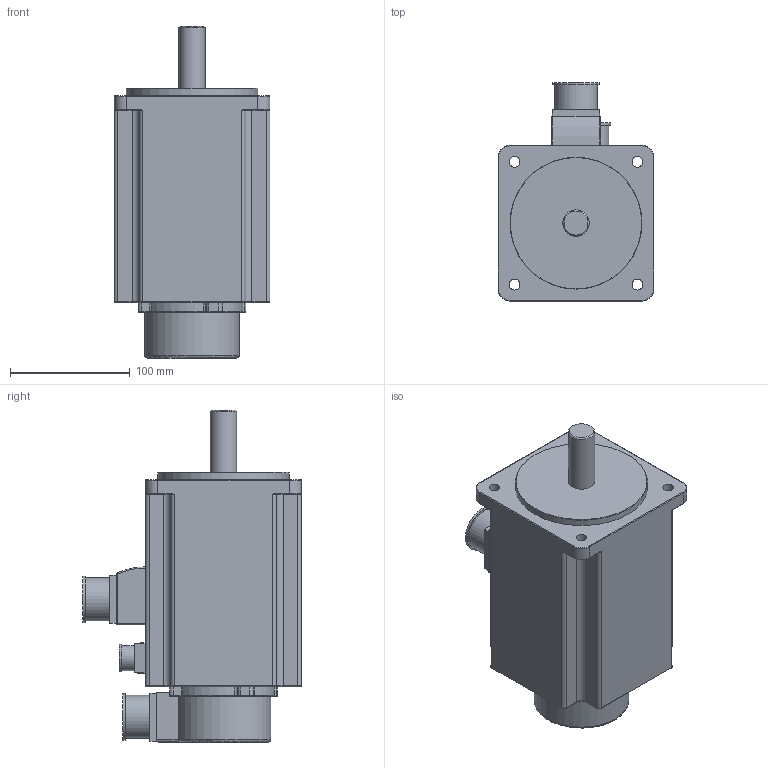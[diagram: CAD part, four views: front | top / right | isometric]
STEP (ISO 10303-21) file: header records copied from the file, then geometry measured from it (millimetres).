
FILE_DESCRIPTION(/* description */ (''),/* implementation_level */ '2;1');
FILE_NAME(/* name */ '130MAL07725 - FZ.stp',/* time_stamp */ '2019-11-22T13:45:09+08:00',/* author */ (''),/* organization */ (''),/* preprocessor_version */ 'ST-DEVELOPER v16',/* originating_system */ 'SIEMENS PLM Software NX 10.0',/* authorisation */ '');
FILE_SCHEMA (('CONFIG_CONTROL_DESIGN'));
Length unit declared in the file: millimetre
Products named in the file (1): 130MAL07725 - FZ
Bounding box: 130 x 182.5 x 277 mm (x, y, z)
Volume: 3102828.9 mm3; surface area: 154292.7 mm2
Topology: 1 solids, 1 shells, 283 faces, 663 edges, 375 vertices
Faces by surface type: cylinder 131, plane 67, torus 55, sphere 16, bspline 12, cone 2
Full cylindrical faces by diameter (mm): 9 x4, 21 x1, 22 x1, 23 x1, 36 x2, 39 x2, 110 x1
Entity records: 8052 total; most frequent: CARTESIAN_POINT 1557, DIRECTION 1477, ORIENTED_EDGE 1250, EDGE_CURVE 625, AXIS2_PLACEMENT_3D 602, VERTEX_POINT 369, CIRCLE 320, EDGE_LOOP 316
